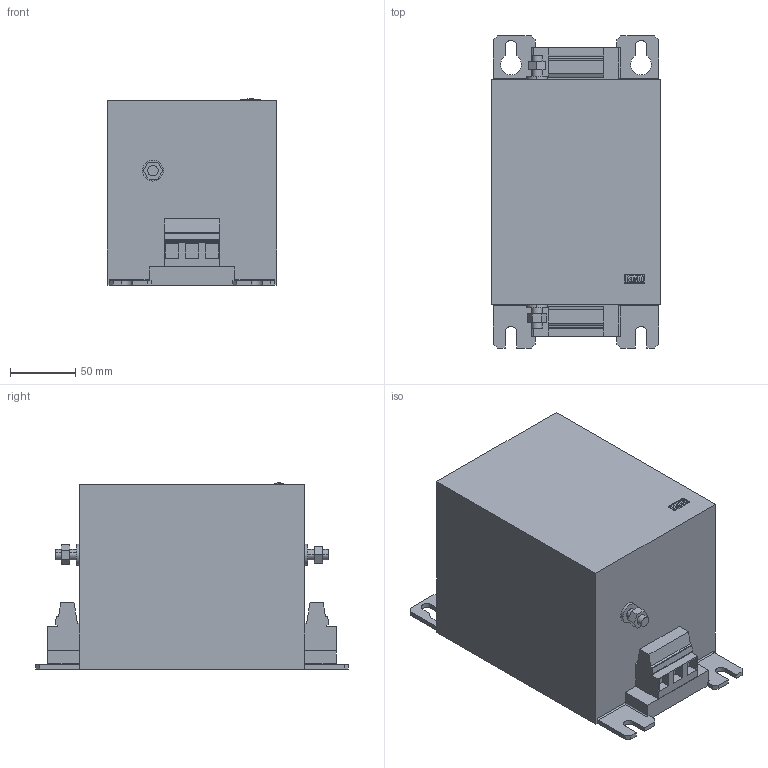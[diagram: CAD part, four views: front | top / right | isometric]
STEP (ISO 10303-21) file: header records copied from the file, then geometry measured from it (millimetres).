
FILE_DESCRIPTION (( 'STEP AP214' ), '1' );
FILE_NAME ('00E6X01-0018.STEP', '2023-07-10T14:31:28', ( '' ), ( '' ), 'SwSTEP 2.0', 'SolidWorks 2022', '' );
FILE_SCHEMA (( 'AUTOMOTIVE_DESIGN' ));
Length unit declared in the file: millimetre
Products named in the file (1): 00E6X01-0018
Bounding box: 130 x 240 x 143.22 mm (x, y, z)
Volume: 3310817 mm3; surface area: 154979.1 mm2
Topology: 1 solids, 1 shells, 212 faces, 561 edges, 370 vertices
Faces by surface type: plane 158, cylinder 41, bspline 13
Entity records: 7991 total; most frequent: CARTESIAN_POINT 2628, ORIENTED_EDGE 1122, DIRECTION 931, EDGE_CURVE 561, VECTOR 403, LINE 403, VERTEX_POINT 370, AXIS2_PLACEMENT_3D 264
